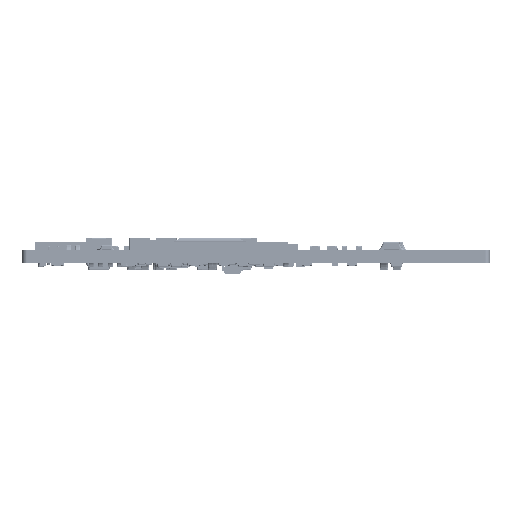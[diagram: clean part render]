
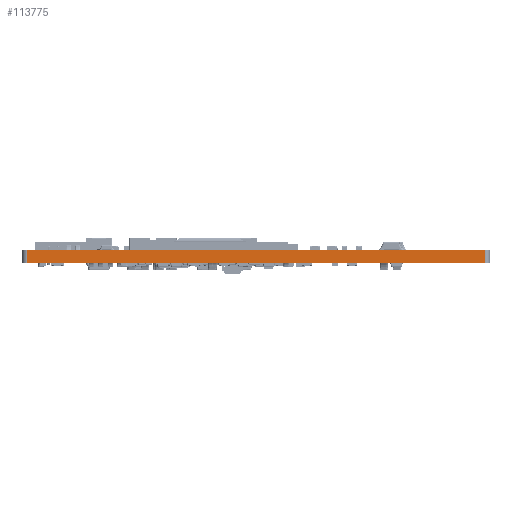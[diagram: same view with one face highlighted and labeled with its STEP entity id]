
A CAD part, left-side view. The second image highlights one B-rep face of the part: STEP entity #113775.
In plain terms, the highlighted planar face has unit normal (-1, 0, 0).
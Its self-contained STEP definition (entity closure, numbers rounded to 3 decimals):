
#2312 = ORIENTED_EDGE ( 'NONE', *, *, #32554, .T. ) ;
#7268 = CARTESIAN_POINT ( 'NONE',  ( 0., 10.167, 0. ) ) ;
#9483 = ORIENTED_EDGE ( 'NONE', *, *, #223958, .T. ) ;
#11795 = PLANE ( 'NONE',  #212990 ) ;
#23568 = CARTESIAN_POINT ( 'NONE',  ( 0., -4.5, -1.2 ) ) ;
#32554 = EDGE_CURVE ( 'NONE', #208871, #74796, #299459, .T. ) ;
#42235 = EDGE_CURVE ( 'NONE', #151493, #163057, #52938, .T. ) ;
#47056 = CARTESIAN_POINT ( 'NONE',  ( 0., -4.5, 0. ) ) ;
#52938 = B_SPLINE_CURVE_WITH_KNOTS ( 'NONE', 3,
 ( #47056, #239762, #261870, #278853 ),
 .UNSPECIFIED., .F., .F.,
 ( 4, 4 ),
 ( 0., 1. ),
 .UNSPECIFIED. ) ;
#58421 = CARTESIAN_POINT ( 'NONE',  ( 0., 39.5, 0. ) ) ;
#68036 = CARTESIAN_POINT ( 'NONE',  ( 0., 39.5, -1.2 ) ) ;
#70584 = ORIENTED_EDGE ( 'NONE', *, *, #256077, .T. ) ;
#74796 = VERTEX_POINT ( 'NONE', #191826 ) ;
#75892 = ORIENTED_EDGE ( 'NONE', *, *, #42235, .F. ) ;
#77782 = DIRECTION ( 'NONE',  ( -1., 0., 0. ) ) ;
#83838 = DIRECTION ( 'NONE',  ( 0., 0., 1. ) ) ;
#98830 = CARTESIAN_POINT ( 'NONE',  ( 0., -4.5, -1.2 ) ) ;
#99857 = B_SPLINE_CURVE_WITH_KNOTS ( 'NONE', 3,
 ( #68036, #235371, #258351, #23568 ),
 .UNSPECIFIED., .F., .F.,
 ( 4, 4 ),
 ( 0., 1. ),
 .UNSPECIFIED. ) ;
#102886 = B_SPLINE_CURVE_WITH_KNOTS ( 'NONE', 3,
 ( #240517, #7268, #168393, #242038 ),
 .UNSPECIFIED., .F., .F.,
 ( 4, 4 ),
 ( 0., 1. ),
 .UNSPECIFIED. ) ;
#106000 = CARTESIAN_POINT ( 'NONE',  ( 0., 39.5, -0.4 ) ) ;
#113775 = ADVANCED_FACE ( 'NONE', ( #154412 ), #11795, .T. ) ;
#151493 = VERTEX_POINT ( 'NONE', #220034 ) ;
#154412 = FACE_OUTER_BOUND ( 'NONE', #203974, .T. ) ;
#161804 = CARTESIAN_POINT ( 'NONE',  ( 0., 39.5, 0. ) ) ;
#163057 = VERTEX_POINT ( 'NONE', #98830 ) ;
#168393 = CARTESIAN_POINT ( 'NONE',  ( 0., 24.833, 0. ) ) ;
#191826 = CARTESIAN_POINT ( 'NONE',  ( 0., 39.5, -1.2 ) ) ;
#199000 = CARTESIAN_POINT ( 'NONE',  ( 0., 39.5, 0. ) ) ;
#203974 = EDGE_LOOP ( 'NONE', ( #75892, #70584, #2312, #9483 ) ) ;
#208871 = VERTEX_POINT ( 'NONE', #161804 ) ;
#212990 = AXIS2_PLACEMENT_3D ( 'NONE', #199000, #77782, #83838 ) ;
#220034 = CARTESIAN_POINT ( 'NONE',  ( 0., -4.5, 0. ) ) ;
#223958 = EDGE_CURVE ( 'NONE', #74796, #163057, #99857, .T. ) ;
#224255 = CARTESIAN_POINT ( 'NONE',  ( 0., 39.5, -0.8 ) ) ;
#235371 = CARTESIAN_POINT ( 'NONE',  ( 0., 24.833, -1.2 ) ) ;
#239762 = CARTESIAN_POINT ( 'NONE',  ( 0., -4.5, -0.4 ) ) ;
#240517 = CARTESIAN_POINT ( 'NONE',  ( 0., -4.5, 0. ) ) ;
#242038 = CARTESIAN_POINT ( 'NONE',  ( 0., 39.5, 0. ) ) ;
#247236 = CARTESIAN_POINT ( 'NONE',  ( 0., 39.5, -1.2 ) ) ;
#256077 = EDGE_CURVE ( 'NONE', #151493, #208871, #102886, .T. ) ;
#258351 = CARTESIAN_POINT ( 'NONE',  ( 0., 10.167, -1.2 ) ) ;
#261870 = CARTESIAN_POINT ( 'NONE',  ( 0., -4.5, -0.8 ) ) ;
#278853 = CARTESIAN_POINT ( 'NONE',  ( 0., -4.5, -1.2 ) ) ;
#299459 = B_SPLINE_CURVE_WITH_KNOTS ( 'NONE', 3,
 ( #58421, #106000, #224255, #247236 ),
 .UNSPECIFIED., .F., .F.,
 ( 4, 4 ),
 ( 0., 1. ),
 .UNSPECIFIED. ) ;
